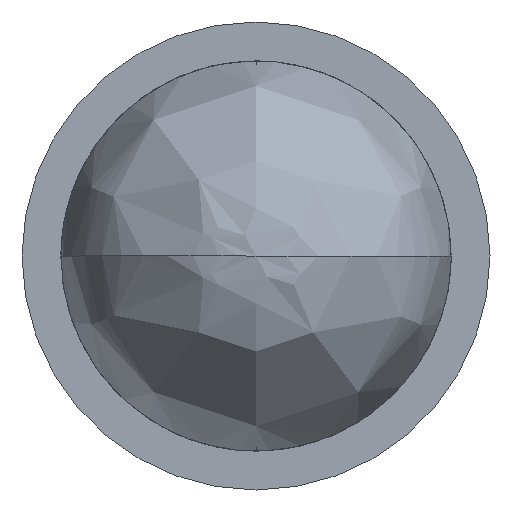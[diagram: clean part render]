
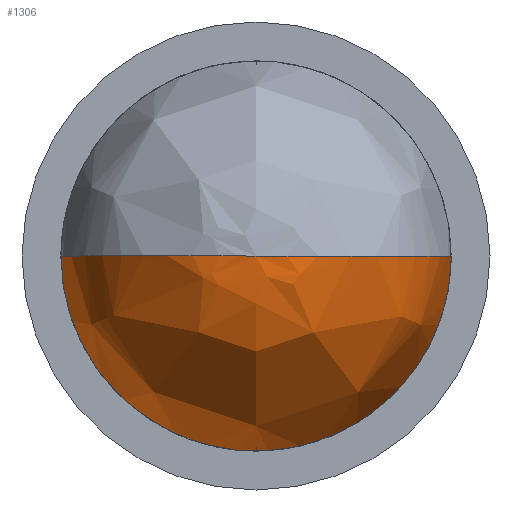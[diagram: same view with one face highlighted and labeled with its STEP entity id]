
A CAD part, front view. The second image highlights one B-rep face of the part: STEP entity #1306.
In plain terms, the highlighted free-form (B-spline) face has degree [3, 3] with [4, 4] control points.
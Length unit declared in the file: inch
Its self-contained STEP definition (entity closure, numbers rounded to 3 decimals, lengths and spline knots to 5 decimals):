
#112 = CARTESIAN_POINT ( 'NONE',  ( -1.15312, 0.7874, 0. ) ) ;
#115 =( BOUNDED_SURFACE ( )  B_SPLINE_SURFACE ( 3, 3, ( 
 ( #1170, #1398, #809, #1041 ),
 ( #340, #802, #1413, #112 ),
 ( #561, #348, #1531, #1293 ),
 ( #919, #688, #461, #1489 ) ),
 .UNSPECIFIED., .F., .F., .T. ) 
 B_SPLINE_SURFACE_WITH_KNOTS ( ( 4, 4 ),
 ( 4, 4 ),
 ( 0., 1. ),
 ( 0., 1. ),
 .UNSPECIFIED. ) 
 GEOMETRIC_REPRESENTATION_ITEM ( )  RATIONAL_B_SPLINE_SURFACE ( (
 ( 1., 0.333, 0.333, 1.),
 ( 0.805, 0.268, 0.268, 0.805),
 ( 0.805, 0.268, 0.268, 0.805),
 ( 1., 0.333, 0.333, 1.) ) ) 
 REPRESENTATION_ITEM ( '' )  SURFACE ( )  );
#124 = CARTESIAN_POINT ( 'NONE',  ( 1.15312, 0.7874, 0. ) ) ;
#156 = ORIENTED_EDGE ( 'NONE', *, *, #528, .F. ) ;
#259 = CARTESIAN_POINT ( 'NONE',  ( 1.9685, 2.75591, 0. ) ) ;
#293 = VERTEX_POINT ( 'NONE', #477 ) ;
#313 = EDGE_LOOP ( 'NONE', ( #156, #700, #1133 ) ) ;
#340 = CARTESIAN_POINT ( 'NONE',  ( 1.15312, 0.7874, 0. ) ) ;
#348 = CARTESIAN_POINT ( 'NONE',  ( 1.9685, 1.60278, -3.93701 ) ) ;
#376 =( BOUNDED_CURVE ( )  B_SPLINE_CURVE ( 3, ( #833, #124, #497, #259 ),
 .UNSPECIFIED., .F., .F. ) 
 B_SPLINE_CURVE_WITH_KNOTS ( ( 4, 4 ),
 ( 0., 1. ),
 .UNSPECIFIED. ) 
 CURVE ( )  GEOMETRIC_REPRESENTATION_ITEM ( )  RATIONAL_B_SPLINE_CURVE ( ( 1., 0.805, 0.805, 1. ) ) 
 REPRESENTATION_ITEM ( '' )  );
#389 = VERTEX_POINT ( 'NONE', #1344 ) ;
#460 = EDGE_CURVE ( 'NONE', #389, #1179, #516, .T. ) ;
#461 = CARTESIAN_POINT ( 'NONE',  ( -1.9685, 2.75591, -3.93701 ) ) ;
#477 = CARTESIAN_POINT ( 'NONE',  ( 0., 0.7874, 0. ) ) ;
#484 =( BOUNDED_CURVE ( )  B_SPLINE_CURVE ( 3, ( #1365, #669, #1501, #1249 ),
 .UNSPECIFIED., .F., .F. ) 
 B_SPLINE_CURVE_WITH_KNOTS ( ( 4, 4 ),
 ( 0., 1. ),
 .UNSPECIFIED. ) 
 CURVE ( )  GEOMETRIC_REPRESENTATION_ITEM ( )  RATIONAL_B_SPLINE_CURVE ( ( 1., 0.805, 0.805, 1. ) ) 
 REPRESENTATION_ITEM ( '' )  );
#486 = CARTESIAN_POINT ( 'NONE',  ( 1.9685, 2.75591, -3.93701 ) ) ;
#497 = CARTESIAN_POINT ( 'NONE',  ( 1.9685, 1.60278, 0. ) ) ;
#516 =( BOUNDED_CURVE ( )  B_SPLINE_CURVE ( 3, ( #638, #1107, #486, #1434 ),
 .UNSPECIFIED., .F., .F. ) 
 B_SPLINE_CURVE_WITH_KNOTS ( ( 4, 4 ),
 ( 0., 1. ),
 .UNSPECIFIED. ) 
 CURVE ( )  GEOMETRIC_REPRESENTATION_ITEM ( )  RATIONAL_B_SPLINE_CURVE ( ( 1., 0.333, 0.333, 1. ) ) 
 REPRESENTATION_ITEM ( '' )  );
#528 = EDGE_CURVE ( 'NONE', #389, #293, #484, .T. ) ;
#561 = CARTESIAN_POINT ( 'NONE',  ( 1.9685, 1.60278, 0. ) ) ;
#638 = CARTESIAN_POINT ( 'NONE',  ( -1.9685, 2.75591, 0. ) ) ;
#669 = CARTESIAN_POINT ( 'NONE',  ( -1.9685, 1.60278, 0. ) ) ;
#688 = CARTESIAN_POINT ( 'NONE',  ( 1.9685, 2.75591, -3.93701 ) ) ;
#700 = ORIENTED_EDGE ( 'NONE', *, *, #460, .T. ) ;
#802 = CARTESIAN_POINT ( 'NONE',  ( 1.15312, 0.7874, -2.30625 ) ) ;
#809 = CARTESIAN_POINT ( 'NONE',  ( 0., 0.7874, 0. ) ) ;
#833 = CARTESIAN_POINT ( 'NONE',  ( 0., 0.7874, 0. ) ) ;
#919 = CARTESIAN_POINT ( 'NONE',  ( 1.9685, 2.75591, 0. ) ) ;
#1041 = CARTESIAN_POINT ( 'NONE',  ( 0., 0.7874, 0. ) ) ;
#1107 = CARTESIAN_POINT ( 'NONE',  ( -1.9685, 2.75591, -3.93701 ) ) ;
#1133 = ORIENTED_EDGE ( 'NONE', *, *, #1403, .F. ) ;
#1170 = CARTESIAN_POINT ( 'NONE',  ( 0., 0.7874, 0. ) ) ;
#1179 = VERTEX_POINT ( 'NONE', #1204 ) ;
#1204 = CARTESIAN_POINT ( 'NONE',  ( 1.9685, 2.75591, 0. ) ) ;
#1249 = CARTESIAN_POINT ( 'NONE',  ( 0., 0.7874, 0. ) ) ;
#1293 = CARTESIAN_POINT ( 'NONE',  ( -1.9685, 1.60278, 0. ) ) ;
#1306 = ADVANCED_FACE ( 'NONE', ( #1524 ), #115, .F. ) ;
#1344 = CARTESIAN_POINT ( 'NONE',  ( -1.9685, 2.75591, 0. ) ) ;
#1365 = CARTESIAN_POINT ( 'NONE',  ( -1.9685, 2.75591, 0. ) ) ;
#1398 = CARTESIAN_POINT ( 'NONE',  ( 0., 0.7874, 0. ) ) ;
#1403 = EDGE_CURVE ( 'NONE', #293, #1179, #376, .T. ) ;
#1413 = CARTESIAN_POINT ( 'NONE',  ( -1.15312, 0.7874, -2.30625 ) ) ;
#1434 = CARTESIAN_POINT ( 'NONE',  ( 1.9685, 2.75591, 0. ) ) ;
#1489 = CARTESIAN_POINT ( 'NONE',  ( -1.9685, 2.75591, 0. ) ) ;
#1501 = CARTESIAN_POINT ( 'NONE',  ( -1.15312, 0.7874, 0. ) ) ;
#1524 = FACE_OUTER_BOUND ( 'NONE', #313, .T. ) ;
#1531 = CARTESIAN_POINT ( 'NONE',  ( -1.9685, 1.60278, -3.93701 ) ) ;
